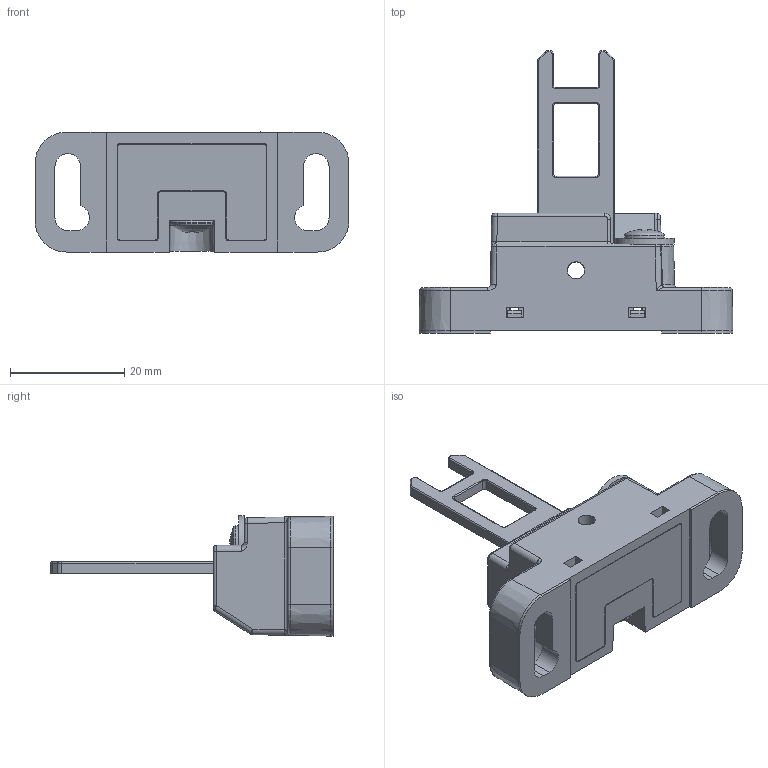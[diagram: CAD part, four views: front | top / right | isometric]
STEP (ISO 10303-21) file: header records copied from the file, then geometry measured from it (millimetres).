
FILE_DESCRIPTION((''),'2;1');
FILE_NAME('ASM_YAOSHI_ASM','2021-12-13T',('Administrator'),(''),'PRO/ENGINEER BY PARAMETRIC TECHNOLOGY CORPORATION, 2010280','PRO/ENGINEER BY PARAMETRIC TECHNOLOGY CORPORATION, 2010280','');
FILE_SCHEMA(('CONFIG_CONTROL_DESIGN'));
Length unit declared in the file: millimetre
Products named in the file (6): GONGNENGYAOSHI; YAOSHIZUO-2SET; YAOSHIGAI; 4X8-LS-10DIAN; 4X8-LS; ASM_YAOSHI_ASM
Assembly tree (5 placements, depth 2):
  ASM_YAOSHI_ASM
    GONGNENGYAOSHI
    YAOSHIZUO-2SET
    YAOSHIGAI
    4X8-LS-10DIAN
    4X8-LS
Bounding box: 55 x 49.5 x 21.05 mm (x, y, z)
Volume: 10862.3 mm3; surface area: 10207.1 mm2
Topology: 5 solids, 5 shells, 524 faces, 1395 edges, 883 vertices
Faces by surface type: plane 255, cylinder 162, bspline 45, torus 36, cone 18, sphere 8
Entity records: 21866 total; most frequent: CARTESIAN_POINT 9000, ORIENTED_EDGE 2790, DIRECTION 2486, EDGE_CURVE 1395, VERTEX_POINT 883, VECTOR 860, LINE 860, AXIS2_PLACEMENT_3D 813
